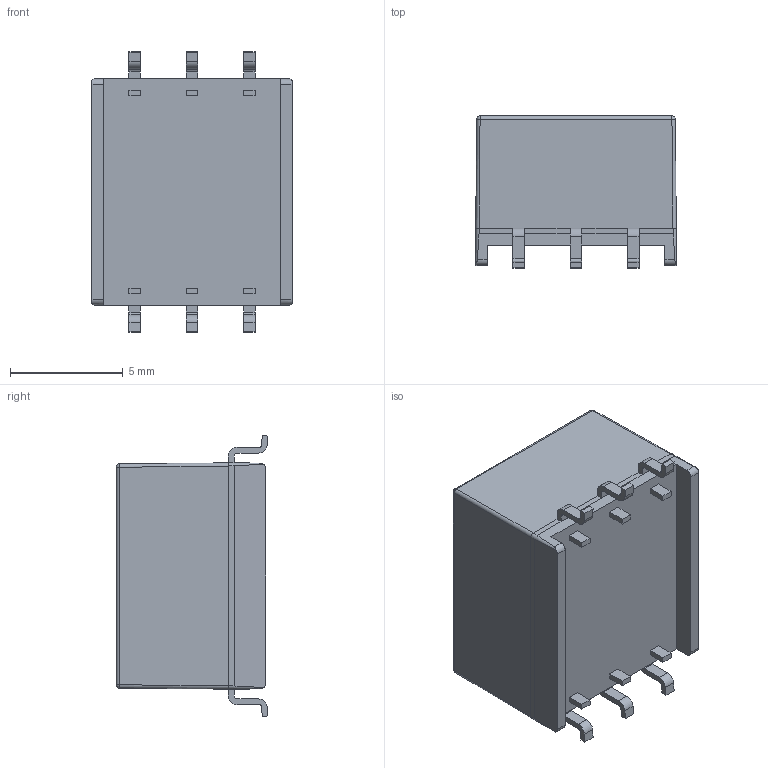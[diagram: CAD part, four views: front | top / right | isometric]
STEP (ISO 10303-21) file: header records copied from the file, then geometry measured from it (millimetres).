
FILE_DESCRIPTION (( 'STEP AP214' ), '1' );
FILE_NAME ('HMU1228NL_3D_202107001.STEP', '2021-07-01T07:50:13', ( '' ), ( '' ), 'SwSTEP 2.0', 'SolidWorks 2020', '' );
FILE_SCHEMA (( 'AUTOMOTIVE_DESIGN' ));
Length unit declared in the file: millimetre
Products named in the file (1): HMU1228NL_3D_202107001
Bounding box: 8.89 x 6.73 x 12.45 mm (x, y, z)
Volume: 518.7 mm3; surface area: 456.3 mm2
Topology: 1 solids, 1 shells, 336 faces, 887 edges, 574 vertices
Faces by surface type: plane 215, bspline 75, cylinder 42, sphere 4
Entity records: 13935 total; most frequent: CARTESIAN_POINT 6141, ORIENTED_EDGE 1766, DIRECTION 1301, EDGE_CURVE 883, VECTOR 641, LINE 641, VERTEX_POINT 574, EDGE_LOOP 361
